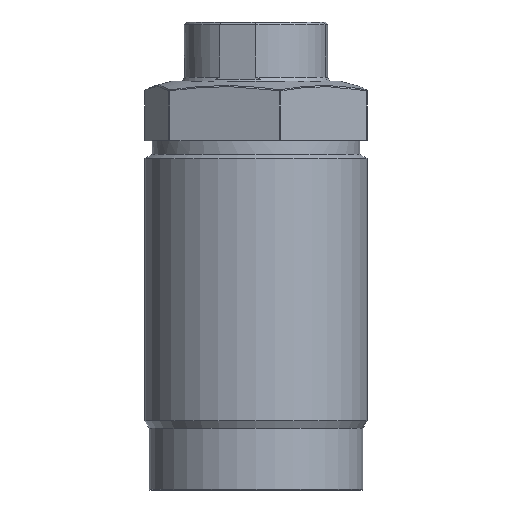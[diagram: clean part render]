
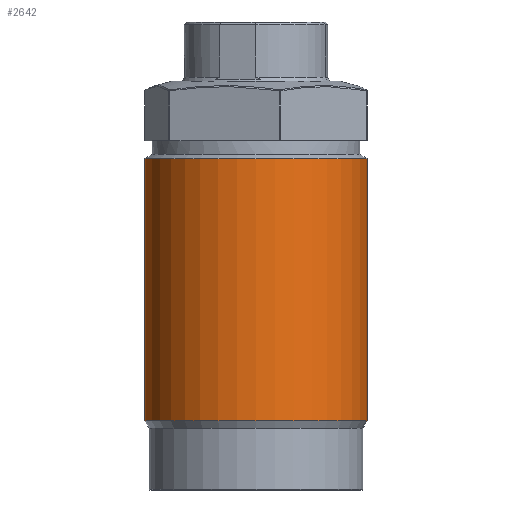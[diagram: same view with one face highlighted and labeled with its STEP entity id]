
A CAD part, front view. The second image highlights one B-rep face of the part: STEP entity #2642.
In plain terms, the highlighted cylindrical face has radius 22.5 mm (diameter 45 mm), a partial arc.
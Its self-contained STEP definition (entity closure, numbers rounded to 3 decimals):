
#176 = CARTESIAN_POINT ( 'NONE',  ( 0., 0., 67.045 ) ) ;
#196 = VERTEX_POINT ( 'NONE', #2371 ) ;
#288 = DIRECTION ( 'NONE',  ( 0., 0., -1. ) ) ;
#376 = VERTEX_POINT ( 'NONE', #3803 ) ;
#568 = CARTESIAN_POINT ( 'NONE',  ( 22.5, 0., 14. ) ) ;
#569 = CARTESIAN_POINT ( 'NONE',  ( -22.5, 0., 70.7 ) ) ;
#702 = DIRECTION ( 'NONE',  ( 0., 0., -1. ) ) ;
#943 = EDGE_CURVE ( 'NONE', #196, #376, #2833, .T. ) ;
#1051 = DIRECTION ( 'NONE',  ( -1., 0., 0. ) ) ;
#1055 = CARTESIAN_POINT ( 'NONE',  ( 22.5, 0., 67.045 ) ) ;
#1172 = VERTEX_POINT ( 'NONE', #1055 ) ;
#1197 = EDGE_LOOP ( 'NONE', ( #2477, #3300, #2187, #3410 ) ) ;
#1259 = VECTOR ( 'NONE', #288, 1000. ) ;
#1584 = FACE_OUTER_BOUND ( 'NONE', #1197, .T. ) ;
#1633 = AXIS2_PLACEMENT_3D ( 'NONE', #176, #2271, #3585 ) ;
#1791 = VERTEX_POINT ( 'NONE', #568 ) ;
#1889 = CIRCLE ( 'NONE', #1633, 22.5 ) ;
#1896 = DIRECTION ( 'NONE',  ( -1., 0., 0. ) ) ;
#1965 = VECTOR ( 'NONE', #2850, 1000. ) ;
#2083 = EDGE_CURVE ( 'NONE', #376, #1791, #3768, .T. ) ;
#2187 = ORIENTED_EDGE ( 'NONE', *, *, #943, .T. ) ;
#2271 = DIRECTION ( 'NONE',  ( 0., 0., -1. ) ) ;
#2361 = LINE ( 'NONE', #3270, #1259 ) ;
#2371 = CARTESIAN_POINT ( 'NONE',  ( -22.5, 0., 67.045 ) ) ;
#2377 = AXIS2_PLACEMENT_3D ( 'NONE', #3389, #702, #1896 ) ;
#2477 = ORIENTED_EDGE ( 'NONE', *, *, #3349, .F. ) ;
#2541 = CARTESIAN_POINT ( 'NONE',  ( 0., 0., 14. ) ) ;
#2642 = ADVANCED_FACE ( 'NONE', ( #1584 ), #3424, .T. ) ;
#2833 = LINE ( 'NONE', #569, #1965 ) ;
#2850 = DIRECTION ( 'NONE',  ( 0., 0., -1. ) ) ;
#3162 = DIRECTION ( 'NONE',  ( 0., 0., 1. ) ) ;
#3188 = EDGE_CURVE ( 'NONE', #1172, #196, #1889, .T. ) ;
#3248 = AXIS2_PLACEMENT_3D ( 'NONE', #2541, #3162, #1051 ) ;
#3270 = CARTESIAN_POINT ( 'NONE',  ( 22.5, 0., 70.7 ) ) ;
#3300 = ORIENTED_EDGE ( 'NONE', *, *, #3188, .T. ) ;
#3349 = EDGE_CURVE ( 'NONE', #1172, #1791, #2361, .T. ) ;
#3389 = CARTESIAN_POINT ( 'NONE',  ( 0., 0., 70.7 ) ) ;
#3410 = ORIENTED_EDGE ( 'NONE', *, *, #2083, .T. ) ;
#3424 = CYLINDRICAL_SURFACE ( 'NONE', #2377, 22.5 ) ;
#3585 = DIRECTION ( 'NONE',  ( -1., 0., 0. ) ) ;
#3768 = CIRCLE ( 'NONE', #3248, 22.5 ) ;
#3803 = CARTESIAN_POINT ( 'NONE',  ( -22.5, 0., 14. ) ) ;
